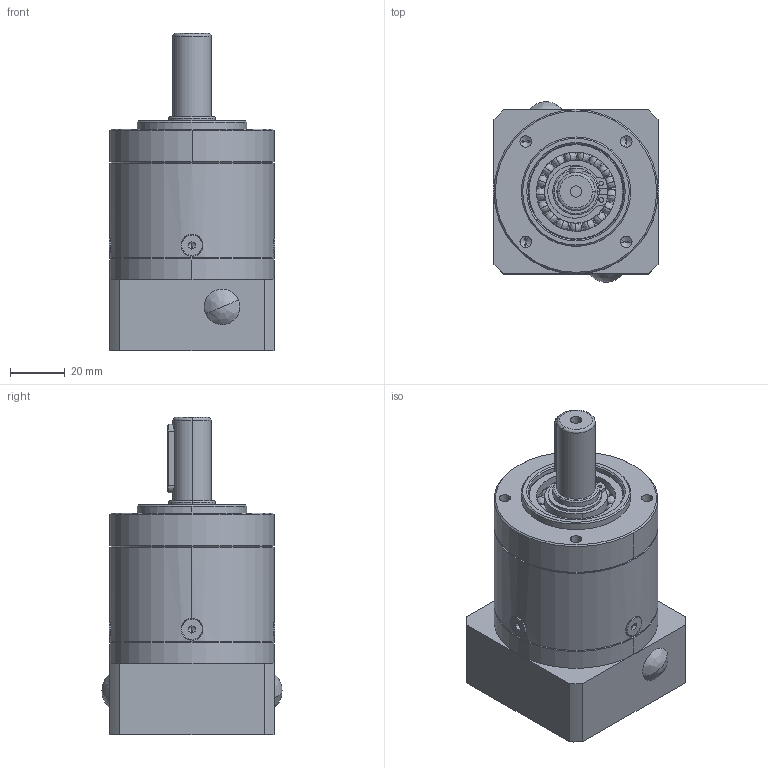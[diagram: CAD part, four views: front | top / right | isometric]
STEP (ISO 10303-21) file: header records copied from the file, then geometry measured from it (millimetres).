
FILE_DESCRIPTION (( 'STEP AP214' ), '1' );
FILE_NAME ('PL60L1-50-14-M5.STEP', '2020-09-11T05:09:24', ( '微软用户' ), ( '微软中国' ), 'SwSTEP 2.0', 'SolidWorks 2014', '' );
FILE_SCHEMA (( 'AUTOMOTIVE_DESIGN' ));
Length unit declared in the file: millimetre
Products named in the file (51): Circlips for shaft--Type A large GB_GB_CONNECTING_PIECE_RING_RRA 17; 薊粣ん14; 黑裔9; Hexagon socket head cap screws GB_GB_FASTENER_SCREWS_HSHCS M5X16-N; Circlips for hole--Type B GB_GB_CONNECTING_PIECE_RINGS_CHB 37; Hexagon socket countersunk head screws GB_GB_FASTENER_SCREWS_HSCHS M4X10-N; Circlips for hole--Type B GB_GB_CONNECTING_PIECE_RINGS_CHB 35; Plain parallel keys_GB_CONNECTING_PIECE_KEYS_CSK 5X25; Deep groove ball bearings GB_Rolling bearings 6003 GB 276-94; Circlips for shaft--Type A large GB_GB_CONNECTING_PIECE_RING_RRA 20; Deep groove ball bearings GB_Rolling bearings 61904 GB 276-94; O形密封圈2X35; 珨撰怮栠謫8A; 俴陎粣7X13.5; 输入端盖; 俴陎謫菜え7.2X17; 怀堤傷裔PL; 俴陎謫8A; 幗渀粣創7X10; 路燭菜え18X49.5; 怀堤粣8A; 一级内齿圈; PL60L1-50-14-M5
Assembly tree (28 placements, depth 2):
  薊粣ん14
  黑裔9
  Circlips for hole--Type B GB_GB_CONNECTING_PIECE_RINGS_CHB 37
  Circlips for hole--Type B GB_GB_CONNECTING_PIECE_RINGS_CHB 35
  Deep groove ball bearings GB_Rolling bearings 6003 GB 276-94
Bounding box: 60.36 x 66 x 116 mm (x, y, z)
Volume: 192920.2 mm3; surface area: 93161.6 mm2
Topology: 28 solids, 28 shells, 988 faces, 3122 edges, 1887 vertices
Faces by surface type: bspline 334, cylinder 319, plane 225, cone 110
Entity records: 34021 total; most frequent: CARTESIAN_POINT 14076, ORIENTED_EDGE 4282, DIRECTION 3514, EDGE_CURVE 2141, AXIS2_PLACEMENT_3D 1489, VERTEX_POINT 1403, CIRCLE 932, EDGE_LOOP 866
